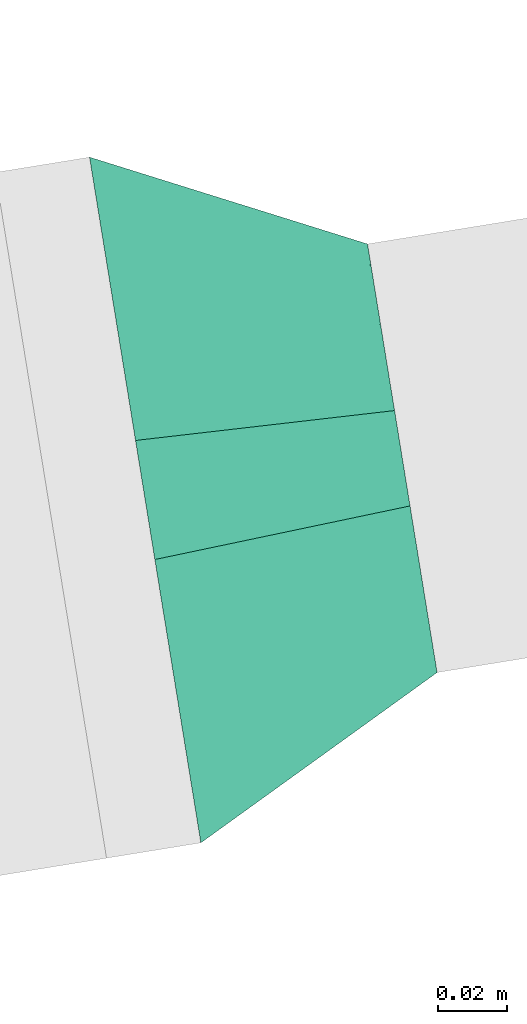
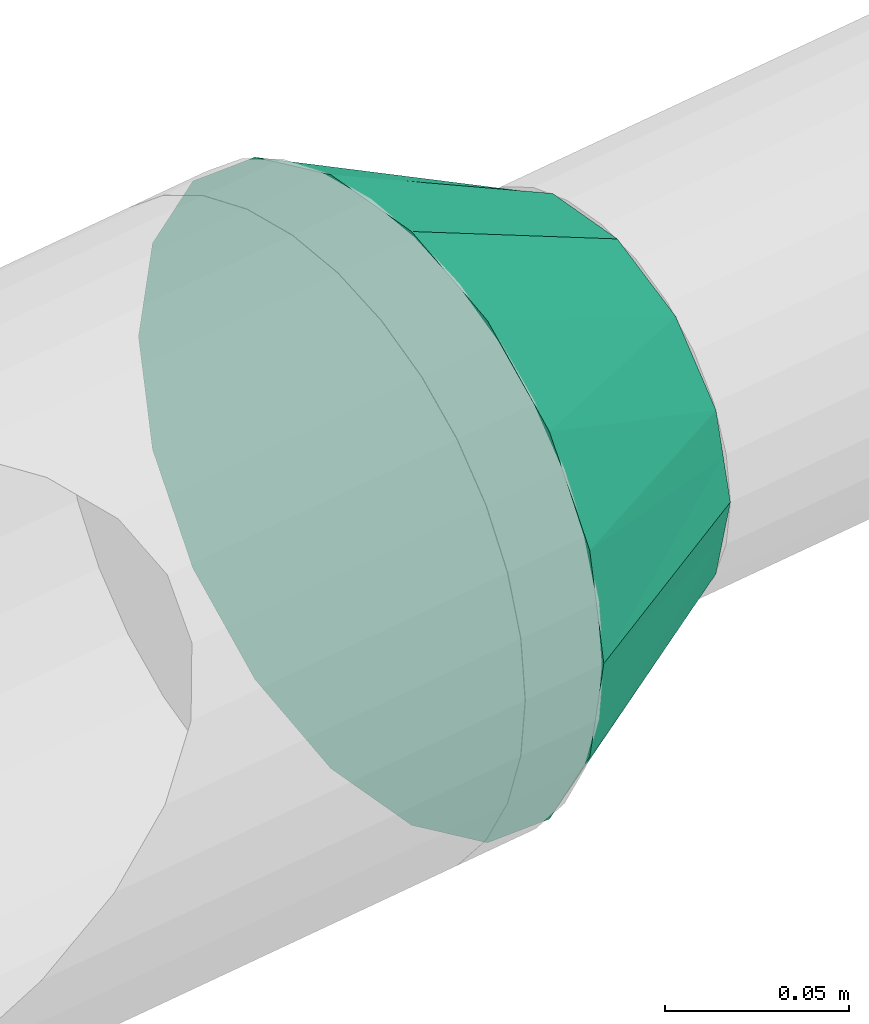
# One storey, part 37 of 39: 1 flow fitting.
"""IFC2X3 building model written with IfcOpenShell, lengths in millimetres."""

from ifc_helpers import new_model, entity, si_unit, converted_unit, derived_unit, direction, frame, origin, origin_with_axes, place, context, subcontext, project, spatial, faceted_brep, source, transform, mapped, material, type_object, element, save


model = new_model("IFC2X3")

# Units and contexts
model_context = context("Model", 3, precision=0.01, world=origin(), true_north=direction((6.12323399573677e-17, 1.0)))
plan_context = context("Plan", 3, precision=1e-05, world=origin_with_axes())
body_context = subcontext(model_context, "Body", "Model", "MODEL_VIEW")
ifc_project = project(units=[converted_unit("PLANEANGLEUNIT", "DEGREE", entity("IfcPositiveLengthMeasure", 0.0174532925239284), si_unit("PLANEANGLEUNIT", "RADIAN"), dimensions=[0, 0, 0, 0, 0, 0, 0]), si_unit("AREAUNIT", "SQUARE_METRE"), si_unit("LENGTHUNIT", "METRE", prefix="MILLI"), si_unit("MASSUNIT", "GRAM", prefix="KILO"), si_unit("POWERUNIT", "WATT"), si_unit("PRESSUREUNIT", "PASCAL", prefix="KILO"), si_unit("FORCEUNIT", "NEWTON", prefix="KILO"), si_unit("ELECTRICVOLTAGEUNIT", "VOLT"), si_unit("ELECTRICCURRENTUNIT", "AMPERE"), si_unit("THERMODYNAMICTEMPERATUREUNIT", "DEGREE_CELSIUS"), si_unit("TIMEUNIT", "SECOND"), si_unit("VOLUMEUNIT", "CUBIC_METRE"), derived_unit("LINEARVELOCITYUNIT", [(si_unit("LENGTHUNIT", "METRE"), 1), (si_unit("TIMEUNIT", "SECOND"), -1)]), derived_unit("VOLUMETRICFLOWRATEUNIT", [(si_unit("VOLUMEUNIT", "CUBIC_METRE"), 1), (si_unit("TIMEUNIT", "SECOND"), -1)]), derived_unit("THERMALTRANSMITTANCEUNIT", [(si_unit("POWERUNIT", "WATT"), 1), (si_unit("THERMODYNAMICTEMPERATUREUNIT", "KELVIN"), -1), (si_unit("AREAUNIT", "SQUARE_METRE"), -1)]), derived_unit("SOUNDPRESSUREUNIT", [(si_unit("PRESSUREUNIT", "PASCAL"), 1)])], contexts=[model_context, plan_context])

# Site, building, storey
site_placement = place(None, frame((-0.00071070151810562, 0.00438415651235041, 0.0), z_axis=(0.0, 0.0, 1.0), x_axis=(-0.160236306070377, 0.987078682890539, 0.0)))
site = spatial("IfcSite", under=ifc_project, at=site_placement, Name="Default", CompositionType="ELEMENT")
building_placement = place(site_placement, origin_with_axes())
building = spatial("IfcBuilding", under=site, at=building_placement, CompositionType="ELEMENT")
storey_placement = place(building_placement, frame((0.0, 0.0, 50999.9999999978), z_axis=(0.0, 0.0, 1.0), x_axis=(1.0, 0.0, 0.0)))
storey = spatial("IfcBuildingStorey", under=building, at=storey_placement, Name="Nivå D", CompositionType="ELEMENT", Elevation=50999.9999999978)

# Flow fitting
ifc_material = material(Name="Material_Duct")
duct_fitting_type = type_object("IfcDuctFittingType", Name="magicirc_reduction_001:magicirc_reduction_001", PredefinedType="NOTDEFINED", material=ifc_material)
shared_shape = source(origin(), body_context, "Body", "Brep", [
    faceted_brep([(75.0, 17.3648177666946, 98.4807753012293), (75.0, -17.3648177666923, 98.4807753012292), (75.0, -50.0, 86.6025403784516), (75.0, -76.6044443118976, 64.2787609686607), (75.0, -93.9692620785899, 34.2020143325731), (75.0, -100.0, 0.0), (75.0, -93.969262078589, -34.2020143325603), (75.0, -76.6044443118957, -64.2787609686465), (75.0, -50.0, -86.6025403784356), (75.0, -17.3648177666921, -98.4807753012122), (75.0, 17.3648177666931, -98.4807753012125), (75.0, 50.0, -86.6025403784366), (75.0, 76.6044443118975, -64.2787609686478), (75.0, 93.9692620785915, -34.2020143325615), (75.0, 100.0, 0.0), (75.0, 93.9692620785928, 34.2020143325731), (75.0, 76.6044443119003, 64.278760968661), (75.0, 50.0, 86.6025403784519), (0.0, 56.3105542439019, 27.1177336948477), (0.0, 59.405277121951, 13.5588668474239), (0.0, 62.5000000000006, 0.0), (0.0, 59.4052771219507, -13.558866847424), (0.0, 56.3105542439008, -27.1177336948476), (0.0, 47.6393334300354, -37.9911006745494), (0.0, 38.9681126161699, -48.8644676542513), (0.0, 26.4378354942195, -54.8987310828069), (0.0, 13.907558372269, -60.9329945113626), (0.0, 0.0, -60.9329945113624), (0.0, -13.9075583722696, -60.9329945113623), (0.0, -26.4378354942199, -54.8987310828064), (0.0, -38.9681126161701, -48.8644676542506), (0.0, -47.6393334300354, -37.9911006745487), (0.0, -56.3105542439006, -27.1177336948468), (0.0, -59.4052771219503, -13.5588668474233), (0.0, -62.4999999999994, 0.0), (0.0, -59.4052771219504, 13.5588668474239), (0.0, -56.3105542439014, 27.1177336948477), (0.0, -47.6393334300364, 37.9911006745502), (0.0, -38.9681126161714, 48.8644676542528), (0.0, -26.4378354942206, 54.8987310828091), (0.0, -13.9075583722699, 60.9329945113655), (0.0, 0.0, 60.9329945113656), (0.0, 13.9075583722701, 60.9329945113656), (0.0, 26.4378354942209, 54.8987310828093), (0.0, 38.9681126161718, 48.8644676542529), (0.0, 47.6393334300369, 37.9911006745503)], [[[0, 1, 2, 3, 4, 5, 6, 7, 8, 9, 10, 11, 12, 13, 14, 15, 16, 17]], [[18, 19, 20, 21, 22, 23, 24, 25, 26, 27, 28, 29, 30, 31, 32, 33, 34, 35, 36, 37, 38, 39, 40, 41, 42, 43, 44, 45]], [[5, 33, 6]], [[7, 32, 31, 30]], [[29, 28, 9]], [[9, 28, 27, 26, 10]], [[32, 7, 6]], [[33, 5, 34]], [[8, 7, 30]], [[29, 9, 8]], [[33, 32, 6]], [[8, 30, 29]], [[10, 25, 11]], [[25, 24, 11]], [[14, 21, 20]], [[22, 12, 24, 23]], [[25, 10, 26]], [[13, 22, 21]], [[12, 11, 24]], [[13, 12, 22]], [[13, 21, 14]], [[14, 19, 15]], [[16, 18, 45, 44]], [[43, 42, 0]], [[0, 42, 41, 40, 1]], [[18, 16, 15]], [[19, 14, 20]], [[17, 16, 44]], [[43, 0, 17]], [[19, 18, 15]], [[17, 44, 43]], [[1, 39, 2]], [[39, 38, 2]], [[5, 35, 34]], [[36, 3, 38, 37]], [[39, 1, 40]], [[4, 36, 35]], [[3, 2, 38]], [[4, 3, 36]], [[4, 35, 5]]]),
])
flow_fitting_placement = place(storey_placement, frame((779472.619644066, -592056.98173883, 2903.07848), z_axis=(0.0, 0.0, 1.0), x_axis=(0.0, 1.0, 0.0)))
element("IfcFlowFitting", 1, at=flow_fitting_placement, inside=storey, type_object=duct_fitting_type, material=ifc_material, Name="magicirc_reduction_001:magicirc_reduction_001", ObjectType="magicirc_reduction_001:magicirc_reduction_001", context=body_context, shape_type="MappedRepresentation", body=[
    mapped(shared_shape, transform((0.0, 0.0, 0.0), scale=1.0)),
])

save(model, "model.ifc")
